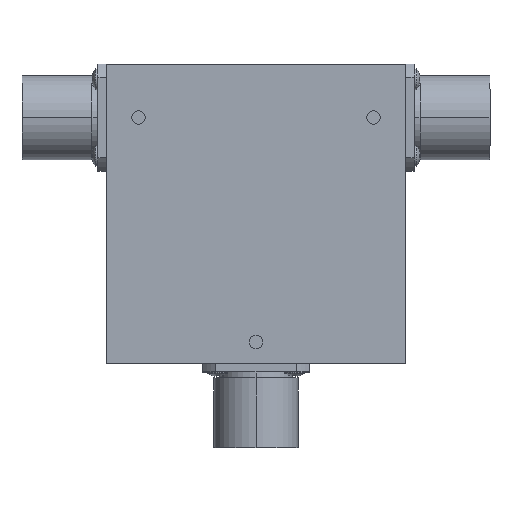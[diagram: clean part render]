
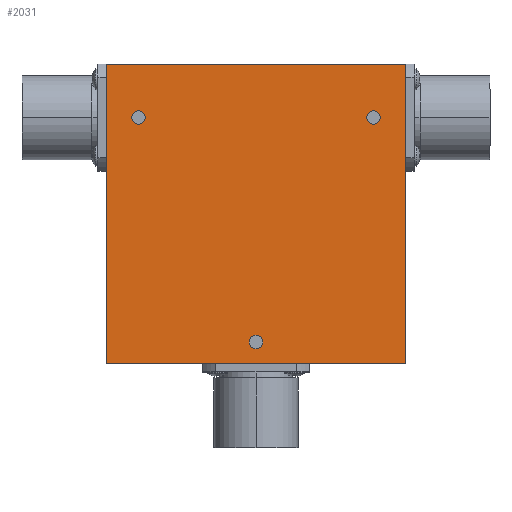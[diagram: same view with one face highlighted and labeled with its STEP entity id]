
A CAD part, top view. The second image highlights one B-rep face of the part: STEP entity #2031.
In plain terms, the highlighted planar face has unit normal (0, 0, 1).
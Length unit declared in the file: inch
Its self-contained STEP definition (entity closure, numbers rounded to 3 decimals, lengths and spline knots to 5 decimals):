
#18 = AXIS2_PLACEMENT_3D ( 'NONE', #1197, #985, #2351 ) ;
#127 = EDGE_LOOP ( 'NONE', ( #902, #2481 ) ) ;
#143 = EDGE_CURVE ( 'NONE', #2052, #1050, #1939, .T. ) ;
#210 = FACE_BOUND ( 'NONE', #127, .T. ) ;
#244 = EDGE_CURVE ( 'NONE', #2298, #1352, #1041, .T. ) ;
#246 = CARTESIAN_POINT ( 'NONE',  ( 0., 0., 0.5 ) ) ;
#247 = ORIENTED_EDGE ( 'NONE', *, *, #1741, .F. ) ;
#354 = CARTESIAN_POINT ( 'NONE',  ( -1.1, 0.9, 0.5 ) ) ;
#375 = EDGE_LOOP ( 'NONE', ( #1286, #466 ) ) ;
#376 = AXIS2_PLACEMENT_3D ( 'NONE', #1922, #1287, #828 ) ;
#382 = ORIENTED_EDGE ( 'NONE', *, *, #657, .T. ) ;
#393 = EDGE_LOOP ( 'NONE', ( #1253, #2161, #955, #382 ) ) ;
#466 = ORIENTED_EDGE ( 'NONE', *, *, #1418, .F. ) ;
#497 = DIRECTION ( 'NONE',  ( 0., 0., 1. ) ) ;
#568 = DIRECTION ( 'NONE',  ( -1., 0., 0. ) ) ;
#577 = CIRCLE ( 'NONE', #978, 0.0625 ) ;
#624 = CARTESIAN_POINT ( 'NONE',  ( 0., -1.2, 0.5 ) ) ;
#636 = DIRECTION ( 'NONE',  ( 1., 0., 0. ) ) ;
#657 = EDGE_CURVE ( 'NONE', #806, #1090, #999, .T. ) ;
#732 = AXIS2_PLACEMENT_3D ( 'NONE', #354, #2378, #1039 ) ;
#765 = CARTESIAN_POINT ( 'NONE',  ( -1.4, 1.4, 0.5 ) ) ;
#774 = LINE ( 'NONE', #1758, #2190 ) ;
#806 = VERTEX_POINT ( 'NONE', #1008 ) ;
#828 = DIRECTION ( 'NONE',  ( 1., 0., 0. ) ) ;
#862 = CARTESIAN_POINT ( 'NONE',  ( -1.1625, 0.9, 0.5 ) ) ;
#885 = CIRCLE ( 'NONE', #18, 0.0625 ) ;
#902 = ORIENTED_EDGE ( 'NONE', *, *, #1931, .F. ) ;
#922 = CARTESIAN_POINT ( 'NONE',  ( 1.4, 1.4, 0.5 ) ) ;
#955 = ORIENTED_EDGE ( 'NONE', *, *, #2567, .T. ) ;
#978 = AXIS2_PLACEMENT_3D ( 'NONE', #2144, #1912, #2350 ) ;
#985 = DIRECTION ( 'NONE',  ( 0., 0., 1. ) ) ;
#995 = VECTOR ( 'NONE', #1958, 39.37008 ) ;
#997 = CARTESIAN_POINT ( 'NONE',  ( 1.4, -1.4, 0.5 ) ) ;
#999 = LINE ( 'NONE', #1742, #1653 ) ;
#1008 = CARTESIAN_POINT ( 'NONE',  ( -1.4, -1.4, 0.5 ) ) ;
#1039 = DIRECTION ( 'NONE',  ( 1., 0., 0. ) ) ;
#1041 = CIRCLE ( 'NONE', #1728, 0.0625 ) ;
#1050 = VERTEX_POINT ( 'NONE', #765 ) ;
#1054 = CARTESIAN_POINT ( 'NONE',  ( -1.0375, 0.9, 0.5 ) ) ;
#1090 = VERTEX_POINT ( 'NONE', #997 ) ;
#1197 = CARTESIAN_POINT ( 'NONE',  ( 1.1, 0.9, 0.5 ) ) ;
#1250 = AXIS2_PLACEMENT_3D ( 'NONE', #2490, #497, #1376 ) ;
#1253 = ORIENTED_EDGE ( 'NONE', *, *, #2394, .T. ) ;
#1286 = ORIENTED_EDGE ( 'NONE', *, *, #2153, .F. ) ;
#1287 = DIRECTION ( 'NONE',  ( 0., 0., 1. ) ) ;
#1352 = VERTEX_POINT ( 'NONE', #2451 ) ;
#1376 = DIRECTION ( 'NONE',  ( 1., 0., 0. ) ) ;
#1380 = FACE_OUTER_BOUND ( 'NONE', #393, .T. ) ;
#1388 = AXIS2_PLACEMENT_3D ( 'NONE', #246, #1606, #1808 ) ;
#1418 = EDGE_CURVE ( 'NONE', #2640, #1896, #2010, .T. ) ;
#1419 = CARTESIAN_POINT ( 'NONE',  ( 1.0375, 0.9, 0.5 ) ) ;
#1519 = DIRECTION ( 'NONE',  ( 0., 0., 1. ) ) ;
#1606 = DIRECTION ( 'NONE',  ( 0., 0., 1. ) ) ;
#1653 = VECTOR ( 'NONE', #2414, 39.37008 ) ;
#1697 = CARTESIAN_POINT ( 'NONE',  ( 1.1625, 0.9, 0.5 ) ) ;
#1701 = CARTESIAN_POINT ( 'NONE',  ( -1.4, 1.4, 0.5 ) ) ;
#1728 = AXIS2_PLACEMENT_3D ( 'NONE', #624, #1519, #636 ) ;
#1741 = EDGE_CURVE ( 'NONE', #1352, #2298, #577, .T. ) ;
#1742 = CARTESIAN_POINT ( 'NONE',  ( -1.4, -1.4, 0.5 ) ) ;
#1750 = LINE ( 'NONE', #2189, #995 ) ;
#1758 = CARTESIAN_POINT ( 'NONE',  ( -1.4, 1.4, 0.5 ) ) ;
#1788 = VECTOR ( 'NONE', #568, 39.37008 ) ;
#1808 = DIRECTION ( 'NONE',  ( 1., 0., 0. ) ) ;
#1824 = CIRCLE ( 'NONE', #732, 0.0625 ) ;
#1877 = EDGE_CURVE ( 'NONE', #2502, #1915, #2508, .T. ) ;
#1896 = VERTEX_POINT ( 'NONE', #1697 ) ;
#1901 = ORIENTED_EDGE ( 'NONE', *, *, #244, .F. ) ;
#1912 = DIRECTION ( 'NONE',  ( 0., 0., 1. ) ) ;
#1915 = VERTEX_POINT ( 'NONE', #1054 ) ;
#1922 = CARTESIAN_POINT ( 'NONE',  ( -1.1, 0.9, 0.5 ) ) ;
#1931 = EDGE_CURVE ( 'NONE', #1915, #2502, #1824, .T. ) ;
#1939 = LINE ( 'NONE', #1701, #1788 ) ;
#1958 = DIRECTION ( 'NONE',  ( 0., 1., 0. ) ) ;
#2010 = CIRCLE ( 'NONE', #1250, 0.0625 ) ;
#2031 = ADVANCED_FACE ( 'NONE', ( #2893, #2083, #210, #1380 ), #2290, .T. ) ;
#2052 = VERTEX_POINT ( 'NONE', #922 ) ;
#2083 = FACE_BOUND ( 'NONE', #2276, .T. ) ;
#2144 = CARTESIAN_POINT ( 'NONE',  ( 0., -1.2, 0.5 ) ) ;
#2153 = EDGE_CURVE ( 'NONE', #1896, #2640, #885, .T. ) ;
#2161 = ORIENTED_EDGE ( 'NONE', *, *, #143, .T. ) ;
#2189 = CARTESIAN_POINT ( 'NONE',  ( 1.4, 1.4, 0.5 ) ) ;
#2190 = VECTOR ( 'NONE', #2784, 39.37008 ) ;
#2276 = EDGE_LOOP ( 'NONE', ( #1901, #247 ) ) ;
#2290 = PLANE ( 'NONE',  #1388 ) ;
#2298 = VERTEX_POINT ( 'NONE', #2768 ) ;
#2350 = DIRECTION ( 'NONE',  ( 1., 0., 0. ) ) ;
#2351 = DIRECTION ( 'NONE',  ( 1., 0., 0. ) ) ;
#2378 = DIRECTION ( 'NONE',  ( 0., 0., 1. ) ) ;
#2394 = EDGE_CURVE ( 'NONE', #1090, #2052, #1750, .T. ) ;
#2414 = DIRECTION ( 'NONE',  ( 1., 0., 0. ) ) ;
#2451 = CARTESIAN_POINT ( 'NONE',  ( -0.0625, -1.2, 0.5 ) ) ;
#2481 = ORIENTED_EDGE ( 'NONE', *, *, #1877, .F. ) ;
#2490 = CARTESIAN_POINT ( 'NONE',  ( 1.1, 0.9, 0.5 ) ) ;
#2502 = VERTEX_POINT ( 'NONE', #862 ) ;
#2508 = CIRCLE ( 'NONE', #376, 0.0625 ) ;
#2567 = EDGE_CURVE ( 'NONE', #1050, #806, #774, .T. ) ;
#2640 = VERTEX_POINT ( 'NONE', #1419 ) ;
#2768 = CARTESIAN_POINT ( 'NONE',  ( 0.0625, -1.2, 0.5 ) ) ;
#2784 = DIRECTION ( 'NONE',  ( 0., -1., 0. ) ) ;
#2893 = FACE_BOUND ( 'NONE', #375, .T. ) ;
